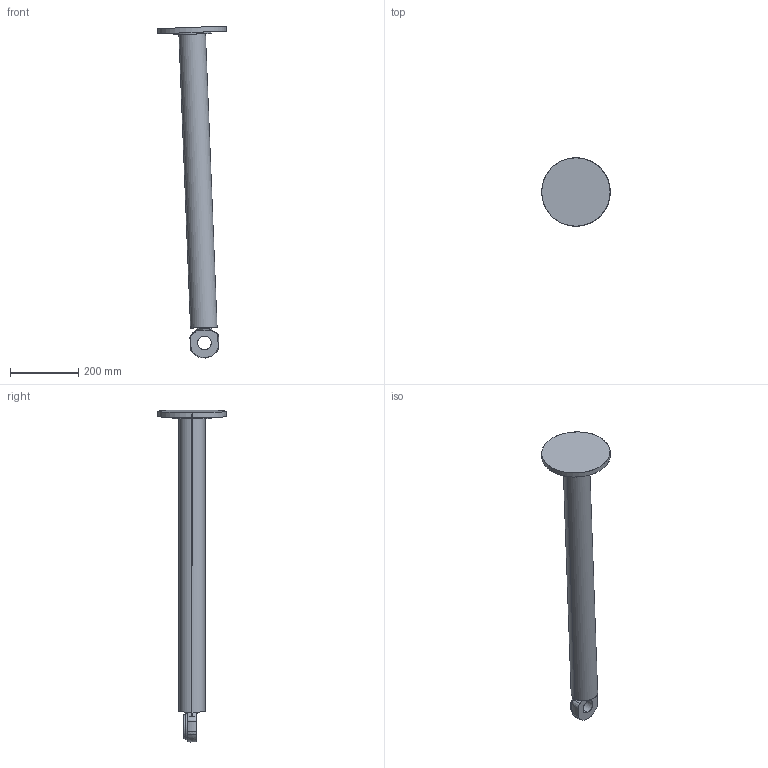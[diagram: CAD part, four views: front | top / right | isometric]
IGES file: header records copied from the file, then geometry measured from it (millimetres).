
Start section: SolidWorks IGES file using analytic representation for surfaces
Global section: file name: C:\Data\Lättmodeller\Nytt\660\IRB660_180-315_IRC5_rev03\IRB660_180-315_IRC5_rev03_IRC5_IGES_j\IRB660_180-315_BALANCE_b_CAD_rev02.IGS; native system: SolidWorks 2014; preprocessor: SolidWorks 2014; author: seadbov; date: 161202.130157; units: millimetre
Bounding box: 201.44 x 201 x 975.69 mm (x, y, z)
Surface area: 309201.9 mm2 (no closed solid volume)
Topology: 0 solids, 0 shells, 39 faces, 1362 edges, 1362 vertices
Faces by surface type: revolution 20, bspline 19
